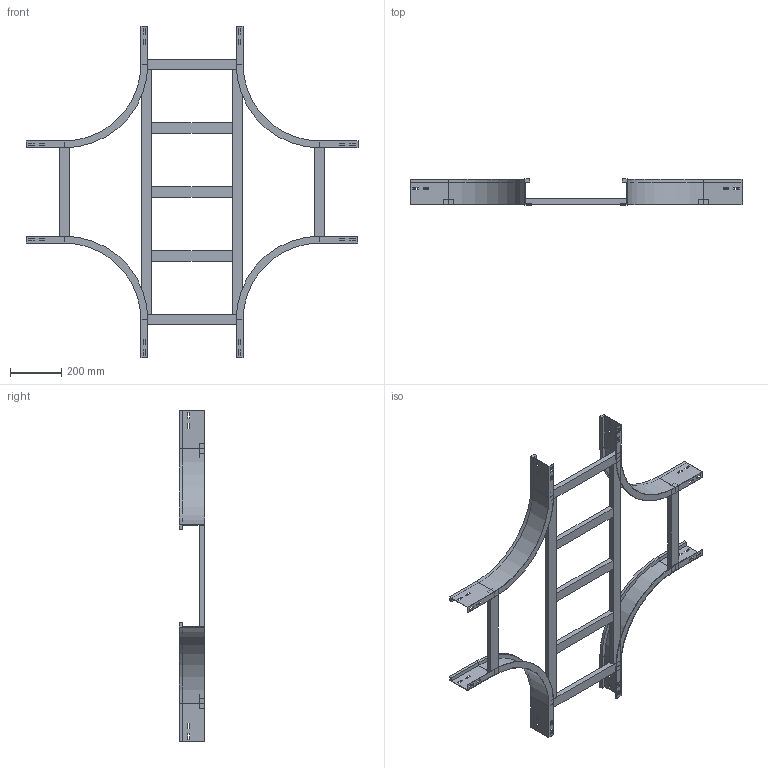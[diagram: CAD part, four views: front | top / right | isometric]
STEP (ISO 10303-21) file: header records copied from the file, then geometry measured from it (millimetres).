
FILE_DESCRIPTION (( 'STEP AP214' ), '1' );
FILE_NAME ('A2_17B3D400.step', '2025-02-21T15:55:02', ( '' ), ( '' ), 'SwSTEP 2.0', 'SolidWorks 2023', '' );
FILE_SCHEMA (( 'AUTOMOTIVE_DESIGN' ));
Length unit declared in the file: millimetre
Products named in the file (5): TRAVERSINO_INTERMEDIO_R300+400; TRAVERSINO_400; A2_LONGH.INTERNO 90°_H100_R300; A2_17B3D400; A2_TRAVERSINO_LONG._R300+400
Assembly tree (13 placements, depth 2):
  A2_17B3D400
    A2_LONGH.INTERNO 90°_H100_R300  x4
    TRAVERSINO_400  x4
    A2_TRAVERSINO_LONG._R300+400  x2
    TRAVERSINO_INTERMEDIO_R300+400  x3
Bounding box: 1300 x 100 x 1300 mm (x, y, z)
Volume: 4974450 mm3; surface area: 1441845.5 mm2
Topology: 13 solids, 13 shells, 286 faces, 716 edges, 456 vertices
Faces by surface type: plane 270, cylinder 16
Entity records: 2450 total; most frequent: CARTESIAN_POINT 400, DIRECTION 380, ORIENTED_EDGE 376, EDGE_CURVE 188, VECTOR 180, LINE 180, VERTEX_POINT 120, AXIS2_PLACEMENT_3D 100
